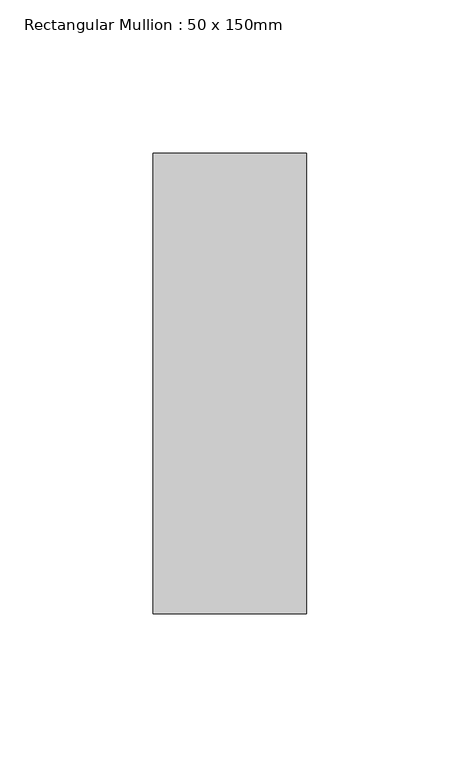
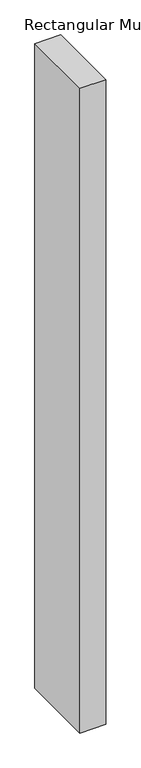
"""IFC4 building model written with IfcOpenShell, lengths in millimetres: member geometry, Rectangular Mullion : 50 x 150mm."""

import ifcopenshell
import ifcopenshell.guid

model = None  # the IFC model being written
_history = None  # IfcOwnerHistory: only IFC2X3 demands one
_inside = {}  # id of a spatial element -> (the spatial element, [elements in it])
_under = {}  # id of a project, library or spatial element -> (it, [spatial elements below it])
_declared = {}  # id of a project -> (the project, [libraries it declares])
_typed = {}  # id of a type object -> (the type object, [elements of that type])
_made_of = {}  # id of a material, layer set ... -> (it, [elements and type objects made of it])


def new_model(schema):
    """Start an empty IFC model of exactly this schema.

    Asked for "IFC4X3", IfcOpenShell would pick the latest addendum, in which some entities
    have other attributes; the version numbers below select the first issue.
    IFC2X3 requires an IfcOwnerHistory on every rooted entity: one is made here for all.
    """
    global model, _history
    if schema == "IFC4X3":
        model = ifcopenshell.file(schema_version=(4, 3, 0, 0))
    else:
        model = ifcopenshell.file(schema=schema)
    _inside.clear()
    _under.clear()
    _declared.clear()
    _typed.clear()
    _made_of.clear()
    _history = None
    if model.schema == "IFC2X3":
        org = make("IfcOrganization", Name="unknown")
        user = make(
            "IfcPersonAndOrganization",
            ThePerson=make("IfcPerson", FamilyName="unknown"),
            TheOrganization=org,
        )
        app = make(
            "IfcApplication",
            ApplicationDeveloper=org,
            Version="unknown",
            ApplicationFullName="unknown",
            ApplicationIdentifier="unknown",
        )
        _history = make(
            "IfcOwnerHistory",
            OwningUser=user,
            OwningApplication=app,
            ChangeAction="ADDED",
            CreationDate=0,
        )
    return model


def make(cls, **values):
    """One entity of the class cls with the attributes given. An attribute that is None is left unset."""
    return model.create_entity(
        cls, **{name: value for name, value in values.items() if value is not None}
    )


def rooted(cls, **values):
    """An entity with a GlobalId (a new one), such as an element, a storey or a relation."""
    return make(cls, GlobalId=ifcopenshell.guid.new(), OwnerHistory=_history, **values)


def si_unit(unit_type, name, prefix=None):
    """IfcSIUnit, for example si_unit("LENGTHUNIT", "METRE", prefix="MILLI")."""
    return make("IfcSIUnit", UnitType=unit_type, Prefix=prefix, Name=name)


def assignment(units):
    """IfcUnitAssignment: the units of a project."""
    return None if units is None else make("IfcUnitAssignment", Units=units)


def point(xyz):
    """IfcCartesianPoint."""
    return None if xyz is None else make("IfcCartesianPoint", Coordinates=xyz)


def direction(xyz):
    """IfcDirection."""
    return None if xyz is None else make("IfcDirection", DirectionRatios=xyz)


def frame(location, z_axis=None, x_axis=None):
    """IfcAxis2Placement3D, a coordinate frame: its origin and axes. An axis left out is left unset."""
    return make(
        "IfcAxis2Placement3D",
        Location=point(location),
        Axis=direction(z_axis),
        RefDirection=direction(x_axis),
    )


def origin():
    """The frame at (0, 0, 0) with its axes left unset."""
    return frame((0.0, 0.0, 0.0))


def place(relative_to, where):
    """IfcLocalPlacement: puts the frame where relative to a parent placement (None: the world)."""
    return make(
        "IfcLocalPlacement", PlacementRelTo=relative_to, RelativePlacement=where
    )


def context(
    kind, dimensions, precision=None, world=None, true_north=None, identifier=None
):
    """IfcGeometricRepresentationContext, for example the 3D "Model" context."""
    return make(
        "IfcGeometricRepresentationContext",
        ContextIdentifier=identifier,
        ContextType=kind,
        CoordinateSpaceDimension=dimensions,
        Precision=precision,
        WorldCoordinateSystem=world,
        TrueNorth=true_north,
    )


def project(units=None, contexts=None):
    """IfcProject with its units and contexts."""
    return rooted(
        "IfcProject",
        Name="project",
        RepresentationContexts=contexts,
        UnitsInContext=assignment(units),
    )


def spatial(cls, under=None, at=None, **own):
    """A site, building, storey or space (cls), placed at a placement, below another one or the project."""
    s = rooted(cls, ObjectPlacement=at, **own)
    if under is not None:
        _under.setdefault(under.id(), (under, []))[1].append(s)
    return s


def polyline(points):
    """IfcPolyline through the points."""
    return make("IfcPolyline", Points=[point(p) for p in points])


def outline(outer, holes=None, kind="AREA"):
    """IfcArbitraryClosedProfileDef: a profile drawn as a closed curve; with holes, ...WithVoids."""
    if holes is None:
        return make("IfcArbitraryClosedProfileDef", ProfileType=kind, OuterCurve=outer)
    return make(
        "IfcArbitraryProfileDefWithVoids",
        ProfileType=kind,
        OuterCurve=outer,
        InnerCurves=holes,
    )


def extrude(swept, where, along, depth):
    """IfcExtrudedAreaSolid: the profile swept, set in the frame where, extruded along a direction by depth."""
    return make(
        "IfcExtrudedAreaSolid",
        SweptArea=swept,
        Position=where,
        ExtrudedDirection=direction(along),
        Depth=depth,
    )


def shape(context_of_items, identifier, shape_type, items):
    """IfcShapeRepresentation: the items that make up one representation, for example the "Body"."""
    return make(
        "IfcShapeRepresentation",
        ContextOfItems=context_of_items,
        RepresentationIdentifier=identifier,
        RepresentationType=shape_type,
        Items=items,
    )


def source(mapping_origin, context_of_items, identifier, shape_type, items):
    """IfcRepresentationMap: a shape defined once, which mapped items show again and again."""
    return make(
        "IfcRepresentationMap",
        MappingOrigin=mapping_origin,
        MappedRepresentation=shape(context_of_items, identifier, shape_type, items),
    )


def transform(
    local_origin,
    x_axis=None,
    y_axis=None,
    z_axis=None,
    scale=None,
    scale2=None,
    scale3=None,
    uniform=True,
):
    """IfcCartesianTransformationOperator3D, or its non-uniform kind. x_axis, y_axis, z_axis: its Axis1, 2, 3."""
    if uniform:
        return make(
            "IfcCartesianTransformationOperator3D",
            Axis1=direction(x_axis),
            Axis2=direction(y_axis),
            LocalOrigin=point(local_origin),
            Scale=scale,
            Axis3=direction(z_axis),
        )
    return make(
        "IfcCartesianTransformationOperator3DnonUniform",
        Axis1=direction(x_axis),
        Axis2=direction(y_axis),
        LocalOrigin=point(local_origin),
        Scale=scale,
        Axis3=direction(z_axis),
        Scale2=scale2,
        Scale3=scale3,
    )


def mapped(mapping_source, mapping_target):
    """IfcMappedItem: shows the shape of a source again, moved by a transform."""
    return make(
        "IfcMappedItem", MappingSource=mapping_source, MappingTarget=mapping_target
    )


def made_of(thing, what):
    """Note that an element or type object is made of a material, layer set ...; save() writes the relation."""
    if what is not None:
        _made_of.setdefault(what.id(), (what, []))[1].append(thing)
    return thing


def element(
    cls,
    number,
    at=None,
    inside=None,
    cuts=None,
    type_object=None,
    material=None,
    context=None,
    identifier="Body",
    shape_type=None,
    held_by="IfcProductDefinitionShape",
    body=None,
    shapes=None,
    **own,
):
    """One element of the class cls, such as IfcWall. Its Tag is "e" and its number.

    at: its placement. inside: the storey or other place that contains it. cuts: it is an
    opening in that element (IfcRelVoidsElement). A single representation is given by context,
    identifier, shape_type and body (its items); several are given by shapes. held_by: the class
    of the entity that holds the representations. save() writes the other relations.
    """
    e = rooted(cls, Tag="e%d" % number, ObjectPlacement=at, **own)
    if body is not None:
        shapes = [shape(context, identifier, shape_type, body)]
    if shapes is not None:
        e.Representation = make(held_by, Representations=shapes)
    if inside is not None:
        _inside.setdefault(inside.id(), (inside, []))[1].append(e)
    if cuts is not None:
        rooted(
            "IfcRelVoidsElement", RelatingBuildingElement=cuts, RelatedOpeningElement=e
        )
    if type_object is not None:
        _typed.setdefault(type_object.id(), (type_object, []))[1].append(e)
    return made_of(e, material)


def aggregate(whole, parts):
    """IfcRelAggregates: a whole, such as a stair, and the parts it consists of."""
    return rooted("IfcRelAggregates", RelatingObject=whole, RelatedObjects=parts)


def save(model, path):
    """Write the relations noted so far, then the file.

    IfcRelAggregates (storeys below a building ...), IfcRelContainedInSpatialStructure (elements
    in a storey), IfcRelDefinesByType, IfcRelAssociatesMaterial and IfcRelDeclares: one each for
    every whole, place, type object, material and project.
    """
    for whole, parts in _under.values():
        aggregate(whole, parts)
    for where, things in _inside.values():
        rooted(
            "IfcRelContainedInSpatialStructure",
            RelatedElements=things,
            RelatingStructure=where,
        )
    for kind, things in _typed.values():
        rooted("IfcRelDefinesByType", RelatedObjects=things, RelatingType=kind)
    for what, things in _made_of.values():
        rooted("IfcRelAssociatesMaterial", RelatedObjects=things, RelatingMaterial=what)
    for by, libraries in _declared.values():
        rooted("IfcRelDeclares", RelatingContext=by, RelatedDefinitions=libraries)
    model.write(path)


def rectangular_mullion_50_x_150mm_305d0c4d(model_context):
    return source(origin(), model_context, "Body", "SweptSolid", [
        extrude(outline(polyline([(25.0, 75.0), (25.0, -75.0), (-25.0, -75.0), (-25.0, 75.0), (25.0, 75.0)])), frame((0.0, 0.0, -1310.0000002), z_axis=(0.0, 0.0, 1.0), x_axis=(1.0, 0.0, 0.0)), (0.0, 0.0, 1.0), 1310.0000002),
    ])


if __name__ == "__main__":
    model = new_model("IFC4")
    model_context = context("Model", 3, world=origin())
    ifc_project = project(units=[si_unit("LENGTHUNIT", "METRE", prefix="MILLI")], contexts=[model_context])
    site = spatial("IfcSite", under=ifc_project)
    building = spatial("IfcBuilding", under=site)
    placement = place(None, origin())
    rectangular_mullion_50_x_150mm_shape = rectangular_mullion_50_x_150mm_305d0c4d(model_context)
    element("IfcMember", 1, ObjectType="Rectangular Mullion : 50 x 150mm", at=placement, inside=building, context=model_context, shape_type="MappedRepresentation", body=[
        mapped(rectangular_mullion_50_x_150mm_shape, transform((0.0, 0.0, 0.0), x_axis=(1.0, 0.0, 0.0), y_axis=(0.0, 1.0, 0.0), z_axis=(0.0, 0.0, 1.0))),
    ])
    save(model, "model.ifc")
